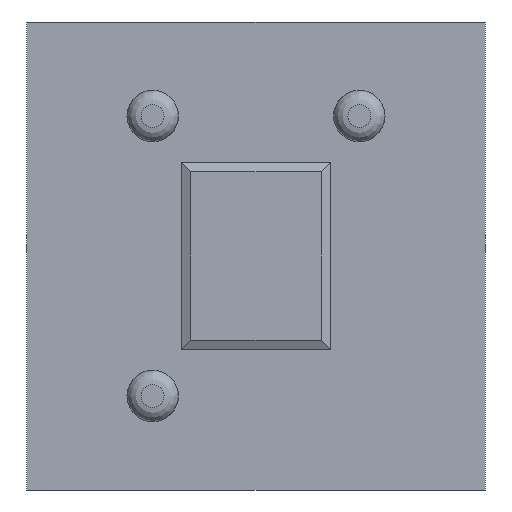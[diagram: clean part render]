
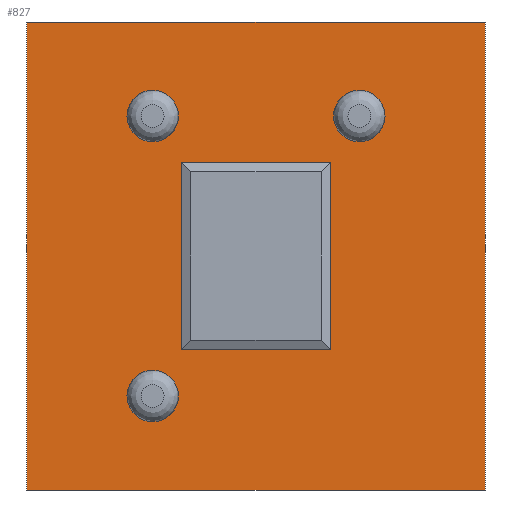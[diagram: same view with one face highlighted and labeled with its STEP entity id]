
A CAD part, front view. The second image highlights one B-rep face of the part: STEP entity #827.
In plain terms, the highlighted planar face has unit normal (0, -1, 0).
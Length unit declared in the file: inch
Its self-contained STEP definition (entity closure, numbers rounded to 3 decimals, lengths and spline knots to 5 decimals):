
#39=FACE_BOUND('',#166,.T.);
#40=FACE_BOUND('',#167,.T.);
#41=FACE_BOUND('',#168,.T.);
#50=PLANE('',#918);
#100=FACE_OUTER_BOUND('',#165,.T.);
#165=EDGE_LOOP('',(#624,#625,#626,#627));
#166=EDGE_LOOP('',(#628));
#167=EDGE_LOOP('',(#629));
#168=EDGE_LOOP('',(#630));
#228=LINE('',#1280,#304);
#232=LINE('',#1288,#308);
#235=LINE('',#1294,#311);
#238=LINE('',#1299,#314);
#304=VECTOR('',#1021,0.3937);
#308=VECTOR('',#1027,0.3937);
#311=VECTOR('',#1032,0.3937);
#314=VECTOR('',#1037,0.3937);
#378=CIRCLE('',#906,0.027);
#380=CIRCLE('',#909,0.027);
#382=CIRCLE('',#912,0.027);
#411=VERTEX_POINT('',#1262);
#413=VERTEX_POINT('',#1268);
#415=VERTEX_POINT('',#1274);
#416=VERTEX_POINT('',#1278);
#417=VERTEX_POINT('',#1279);
#420=VERTEX_POINT('',#1287);
#422=VERTEX_POINT('',#1293);
#482=EDGE_CURVE('',#411,#411,#378,.T.);
#485=EDGE_CURVE('',#413,#413,#380,.T.);
#488=EDGE_CURVE('',#415,#415,#382,.T.);
#489=EDGE_CURVE('',#416,#417,#228,.T.);
#493=EDGE_CURVE('',#417,#420,#232,.T.);
#496=EDGE_CURVE('',#420,#422,#235,.T.);
#499=EDGE_CURVE('',#422,#416,#238,.T.);
#624=ORIENTED_EDGE('',*,*,#499,.T.);
#625=ORIENTED_EDGE('',*,*,#489,.T.);
#626=ORIENTED_EDGE('',*,*,#493,.T.);
#627=ORIENTED_EDGE('',*,*,#496,.T.);
#628=ORIENTED_EDGE('',*,*,#482,.T.);
#629=ORIENTED_EDGE('',*,*,#485,.T.);
#630=ORIENTED_EDGE('',*,*,#488,.T.);
#827=ADVANCED_FACE('',(#100,#39,#40,#41),#50,.F.);
#906=AXIS2_PLACEMENT_3D('',#1264,#1003,#1004);
#909=AXIS2_PLACEMENT_3D('',#1270,#1010,#1011);
#912=AXIS2_PLACEMENT_3D('',#1276,#1017,#1018);
#918=AXIS2_PLACEMENT_3D('',#1302,#1041,#1042);
#1003=DIRECTION('center_axis',(0.,1.,0.));
#1004=DIRECTION('ref_axis',(-1.,0.,0.));
#1010=DIRECTION('center_axis',(0.,1.,0.));
#1011=DIRECTION('ref_axis',(-1.,0.,0.));
#1017=DIRECTION('center_axis',(0.,1.,0.));
#1018=DIRECTION('ref_axis',(-1.,0.,0.));
#1021=DIRECTION('',(0.,0.,-1.));
#1027=DIRECTION('',(1.,0.,0.));
#1032=DIRECTION('',(0.,0.,1.));
#1037=DIRECTION('',(-1.,0.,0.));
#1041=DIRECTION('center_axis',(0.,1.,0.));
#1042=DIRECTION('ref_axis',(1.,0.,0.));
#1262=CARTESIAN_POINT('',(0.1591,0.,0.09875));
#1264=CARTESIAN_POINT('Origin',(0.1321,0.,0.09875));
#1268=CARTESIAN_POINT('',(0.1591,0.,0.39275));
#1270=CARTESIAN_POINT('Origin',(0.1321,0.,0.39275));
#1274=CARTESIAN_POINT('',(0.3761,0.,0.39275));
#1276=CARTESIAN_POINT('Origin',(0.3491,0.,0.39275));
#1278=CARTESIAN_POINT('',(0.,0.,0.4915));
#1279=CARTESIAN_POINT('',(0.,0.,0.));
#1280=CARTESIAN_POINT('',(0.,0.,0.4915));
#1287=CARTESIAN_POINT('',(0.4812,0.,0.));
#1288=CARTESIAN_POINT('',(0.,0.,0.));
#1293=CARTESIAN_POINT('',(0.4812,0.,0.4915));
#1294=CARTESIAN_POINT('',(0.4812,0.,0.));
#1299=CARTESIAN_POINT('',(0.4812,0.,0.4915));
#1302=CARTESIAN_POINT('Origin',(0.2406,0.,0.24575));
